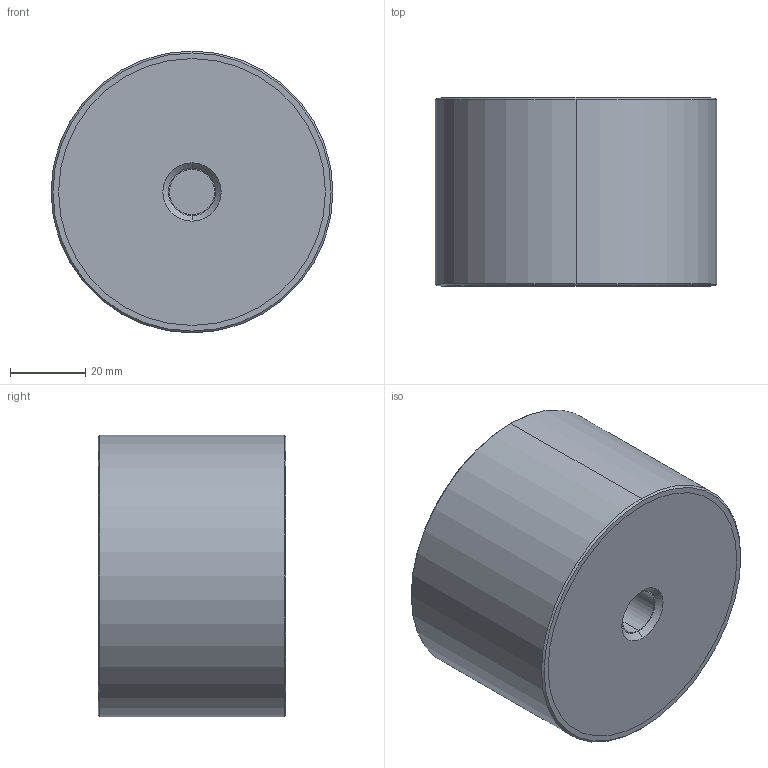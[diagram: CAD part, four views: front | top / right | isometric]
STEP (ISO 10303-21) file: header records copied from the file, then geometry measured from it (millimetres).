
FILE_DESCRIPTION (( 'STEP AP203' ), '1' );
FILE_NAME ('61080.W0752.step', '2018-07-16T20:46:34', ( '' ), ( '' ), 'SwSTEP 2.0', 'SolidWorks 2017', '' );
FILE_SCHEMA (( 'CONFIG_CONTROL_DESIGN' ));
Length unit declared in the file: millimetre
Products named in the file (4): Part3_61080.W0752; Part2_61080.W0752; Part1_61080.W0752; 61080.W0752
Assembly tree (3 placements, depth 2):
  61080.W0752
    Part1_61080.W0752
    Part2_61080.W0752
    Part3_61080.W0752
Bounding box: 75 x 50 x 75 mm (x, y, z)
Volume: 217996 mm3; surface area: 38008.6 mm2
Topology: 3 solids, 3 shells, 32 faces, 62 edges, 40 vertices
Faces by surface type: cylinder 14, plane 10, cone 8
Entity records: 1256 total; most frequent: DIRECTION 178, CARTESIAN_POINT 140, ORIENTED_EDGE 124, AXIS2_PLACEMENT_3D 78, EDGE_CURVE 62, VERTEX_POINT 40, EDGE_LOOP 40, CIRCLE 40
